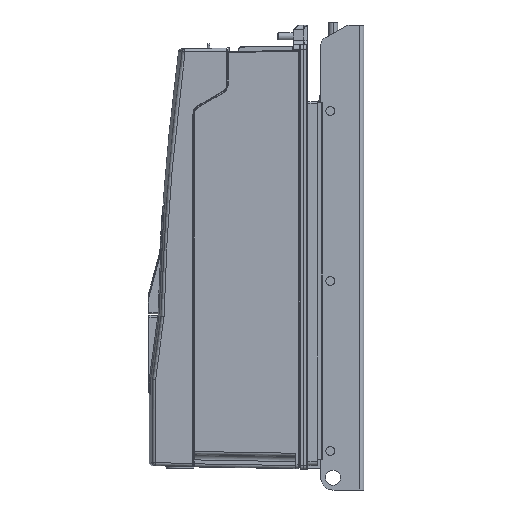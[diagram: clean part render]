
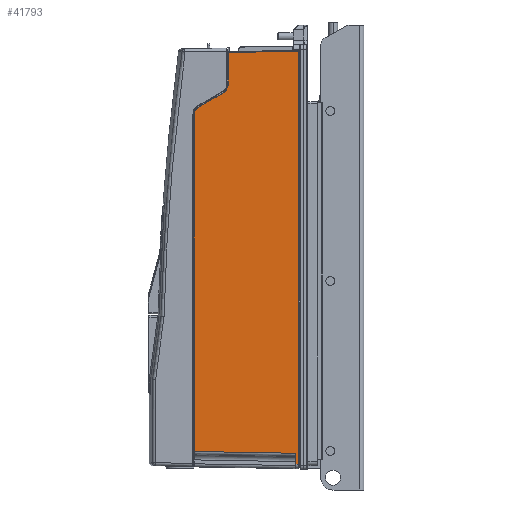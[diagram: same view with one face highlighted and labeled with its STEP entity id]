
A CAD part, left-side view. The second image highlights one B-rep face of the part: STEP entity #41793.
In plain terms, the highlighted planar face has unit normal (-1, 0.018, 0) as drawn and (1, 0.018, 0) by its records, which use the part's own axes.
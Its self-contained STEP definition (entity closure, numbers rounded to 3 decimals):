
#3568 = CARTESIAN_POINT ( 'NONE',  ( 121.241, 114.904, 62.726 ) ) ;
#4063 = EDGE_CURVE ( 'NONE', #96869, #19794, #84691, .T. ) ;
#4316 = VECTOR ( 'NONE', #13209, 1000. ) ;
#6596 = VECTOR ( 'NONE', #77265, 1000. ) ;
#6706 = CARTESIAN_POINT ( 'NONE',  ( 121.84, 81.5, 471. ) ) ;
#10219 = EDGE_CURVE ( 'NONE', #98341, #74494, #77408, .T. ) ;
#12464 = DIRECTION ( 'NONE',  ( -0.016, 0.866, 0.5 ) ) ;
#13209 = DIRECTION ( 'NONE',  ( 0.018, -1., 0. ) ) ;
#14931 = CARTESIAN_POINT ( 'NONE',  ( 123.213, 4.86, 454.589 ) ) ;
#15784 = AXIS2_PLACEMENT_3D ( 'NONE', #35312, #43630, #44665 ) ;
#17586 = VECTOR ( 'NONE', #12464, 1000. ) ;
#19753 = CARTESIAN_POINT ( 'NONE',  ( 121.154, 119.804, 71.213 ) ) ;
#19794 = VERTEX_POINT ( 'NONE', #90331 ) ;
#21732 = CARTESIAN_POINT ( 'NONE',  ( 123.214, 4.804, 455.156 ) ) ;
#21934 = CARTESIAN_POINT ( 'NONE',  ( 121.154, 119.804, 471. ) ) ;
#22891 = EDGE_CURVE ( 'NONE', #19794, #66517, #48826, .T. ) ;
#22925 = ORIENTED_EDGE ( 'NONE', *, *, #82136, .T. ) ;
#23304 = CARTESIAN_POINT ( 'NONE',  ( 123.214, 4.804, 455.156 ) ) ;
#23588 = CARTESIAN_POINT ( 'NONE',  ( 123.207, 5.196, 453.497 ) ) ;
#25798 = VERTEX_POINT ( 'NONE', #71453 ) ;
#25973 = EDGE_CURVE ( 'NONE', #74494, #93705, #28088, .T. ) ;
#26889 = LINE ( 'NONE', #59220, #68629 ) ;
#27454 = VECTOR ( 'NONE', #47631, 1000. ) ;
#27688 = ORIENTED_EDGE ( 'NONE', *, *, #49994, .T. ) ;
#28088 = LINE ( 'NONE', #83375, #65966 ) ;
#28548 = CARTESIAN_POINT ( 'NONE',  ( 123.214, 4.804, 465.943 ) ) ;
#30614 = CARTESIAN_POINT ( 'NONE',  ( 123.21, 5.009, 454.037 ) ) ;
#32450 = CARTESIAN_POINT ( 'NONE',  ( 123.212, 4.939, 453.502 ) ) ;
#34714 = VERTEX_POINT ( 'NONE', #23588 ) ;
#35312 = CARTESIAN_POINT ( 'NONE',  ( 121.15, 120., 471. ) ) ;
#35947 = CARTESIAN_POINT ( 'NONE',  ( 121.186, 118.01, 64.519 ) ) ;
#37039 = CARTESIAN_POINT ( 'NONE',  ( 121.154, 119.804, 71.213 ) ) ;
#37098 = VECTOR ( 'NONE', #44554, 1000. ) ;
#38477 = ORIENTED_EDGE ( 'NONE', *, *, #42649, .T. ) ;
#38492 = CARTESIAN_POINT ( 'NONE',  ( 121.154, 119.804, 451.497 ) ) ;
#39467 = CARTESIAN_POINT ( 'NONE',  ( 123.214, 4.804, 454.869 ) ) ;
#41793 = ADVANCED_FACE ( 'NONE', ( #99489 ), #59826, .F. ) ;
#41849 = B_SPLINE_CURVE_WITH_KNOTS ( 'NONE', 3,
 ( #61411, #47296, #30614, #14931, #39467, #21732 ),
 .UNSPECIFIED., .F., .F.,
 ( 4, 2, 4 ),
 ( 0., 0.001, 0.002 ),
 .UNSPECIFIED. ) ;
#42649 = EDGE_CURVE ( 'NONE', #101862, #25798, #66254, .T. ) ;
#42808 = ORIENTED_EDGE ( 'NONE', *, *, #4063, .F. ) ;
#43630 = DIRECTION ( 'NONE',  ( -1., -0.018, 0. ) ) ;
#43763 = CARTESIAN_POINT ( 'NONE',  ( 121.154, 119.804, 67.626 ) ) ;
#44554 = DIRECTION ( 'NONE',  ( 0., 0., 1. ) ) ;
#44665 = DIRECTION ( 'NONE',  ( 0.018, -1., 0. ) ) ;
#45438 = LINE ( 'NONE', #21934, #6596 ) ;
#46513 = CARTESIAN_POINT ( 'NONE',  ( 121.834, 81.804, 37.726 ) ) ;
#47262 = ORIENTED_EDGE ( 'NONE', *, *, #25973, .T. ) ;
#47296 = CARTESIAN_POINT ( 'NONE',  ( 123.209, 5.102, 453.767 ) ) ;
#47631 = DIRECTION ( 'NONE',  ( 0., 0., -1. ) ) ;
#48097 = CARTESIAN_POINT ( 'NONE',  ( 121.743, 86.904, 46.56 ) ) ;
#48507 = CARTESIAN_POINT ( 'NONE',  ( 123.269, 1.704, -0.542 ) ) ;
#48819 = ORIENTED_EDGE ( 'NONE', *, *, #75736, .T. ) ;
#48826 = LINE ( 'NONE', #6706, #64050 ) ;
#49994 = EDGE_CURVE ( 'NONE', #90820, #66517, #26889, .T. ) ;
#51889 = CARTESIAN_POINT ( 'NONE',  ( 123.214, 4.804, 471. ) ) ;
#52586 = EDGE_LOOP ( 'NONE', ( #42808, #87067, #38477, #89182, #22925, #72062, #54592, #83124, #47262, #48819, #27688, #95103 ) ) ;
#53446 = CARTESIAN_POINT ( 'NONE',  ( 121.84, 81.5, 0.99 ) ) ;
#53932 = CARTESIAN_POINT ( 'NONE',  ( 121.15, 120., 37.726 ) ) ;
#53943 = LINE ( 'NONE', #69576, #27454 ) ;
#54140 =( BOUNDED_CURVE ( )  B_SPLINE_CURVE ( 3, ( #55472, #91919, #59566, #66377 ),
 .UNSPECIFIED., .F., .T. ) 
 B_SPLINE_CURVE_WITH_KNOTS ( ( 4, 4 ),
 ( 0., 1.047 ),
 .UNSPECIFIED. ) 
 CURVE ( )  GEOMETRIC_REPRESENTATION_ITEM ( )  RATIONAL_B_SPLINE_CURVE ( ( 1., 0.911, 0.911, 1. ) ) 
 REPRESENTATION_ITEM ( '' )  );
#54592 = ORIENTED_EDGE ( 'NONE', *, *, #63950, .T. ) ;
#55472 = CARTESIAN_POINT ( 'NONE',  ( 121.834, 81.804, 37.726 ) ) ;
#59220 = CARTESIAN_POINT ( 'NONE',  ( 120.989, 129.004, 1.902 ) ) ;
#59566 = CARTESIAN_POINT ( 'NONE',  ( 121.801, 83.67, 44.693 ) ) ;
#59826 = PLANE ( 'NONE',  #15784 ) ;
#61411 = CARTESIAN_POINT ( 'NONE',  ( 123.207, 5.196, 453.497 ) ) ;
#63950 = EDGE_CURVE ( 'NONE', #34714, #98341, #41849, .T. ) ;
#64050 = VECTOR ( 'NONE', #71788, 1000. ) ;
#65966 = VECTOR ( 'NONE', #100096, 1000. ) ;
#66254 = LINE ( 'NONE', #83938, #17586 ) ;
#66377 = CARTESIAN_POINT ( 'NONE',  ( 121.743, 86.904, 46.56 ) ) ;
#66517 = VERTEX_POINT ( 'NONE', #53446 ) ;
#68629 = VECTOR ( 'NONE', #73338, 1000. ) ;
#69435 = EDGE_CURVE ( 'NONE', #96869, #101862, #54140, .T. ) ;
#69576 = CARTESIAN_POINT ( 'NONE',  ( 123.269, 1.704, 471. ) ) ;
#71453 = CARTESIAN_POINT ( 'NONE',  ( 121.241, 114.904, 62.726 ) ) ;
#71788 = DIRECTION ( 'NONE',  ( 0., 0., -1. ) ) ;
#72062 = ORIENTED_EDGE ( 'NONE', *, *, #101754, .T. ) ;
#73118 = LINE ( 'NONE', #32450, #88344 ) ;
#73338 = DIRECTION ( 'NONE',  ( -0.018, 1., 0.019 ) ) ;
#74494 = VERTEX_POINT ( 'NONE', #28548 ) ;
#75736 = EDGE_CURVE ( 'NONE', #93705, #90820, #53943, .T. ) ;
#77265 = DIRECTION ( 'NONE',  ( 0., 0., 1. ) ) ;
#77408 = LINE ( 'NONE', #51889, #37098 ) ;
#82136 = EDGE_CURVE ( 'NONE', #85664, #94576, #45438, .T. ) ;
#83124 = ORIENTED_EDGE ( 'NONE', *, *, #10219, .T. ) ;
#83375 = CARTESIAN_POINT ( 'NONE',  ( 123.275, 1.413, 466.002 ) ) ;
#83938 = CARTESIAN_POINT ( 'NONE',  ( 121.241, 114.901, 62.724 ) ) ;
#84691 = LINE ( 'NONE', #53932, #4316 ) ;
#85664 = VERTEX_POINT ( 'NONE', #37039 ) ;
#87067 = ORIENTED_EDGE ( 'NONE', *, *, #69435, .T. ) ;
#87789 = CARTESIAN_POINT ( 'NONE',  ( 123.269, 1.704, 465.997 ) ) ;
#88344 = VECTOR ( 'NONE', #97137, 1000. ) ;
#89182 = ORIENTED_EDGE ( 'NONE', *, *, #95493, .T. ) ;
#90331 = CARTESIAN_POINT ( 'NONE',  ( 121.84, 81.5, 37.726 ) ) ;
#90820 = VERTEX_POINT ( 'NONE', #48507 ) ;
#91919 = CARTESIAN_POINT ( 'NONE',  ( 121.834, 81.804, 41.46 ) ) ;
#93599 =( BOUNDED_CURVE ( )  B_SPLINE_CURVE ( 3, ( #3568, #35947, #43763, #19753 ),
 .UNSPECIFIED., .F., .T. ) 
 B_SPLINE_CURVE_WITH_KNOTS ( ( 4, 4 ),
 ( 2.094, 3.142 ),
 .UNSPECIFIED. ) 
 CURVE ( )  GEOMETRIC_REPRESENTATION_ITEM ( )  RATIONAL_B_SPLINE_CURVE ( ( 1., 0.911, 0.911, 1. ) ) 
 REPRESENTATION_ITEM ( '' )  );
#93705 = VERTEX_POINT ( 'NONE', #87789 ) ;
#94576 = VERTEX_POINT ( 'NONE', #38492 ) ;
#95103 = ORIENTED_EDGE ( 'NONE', *, *, #22891, .F. ) ;
#95493 = EDGE_CURVE ( 'NONE', #25798, #85664, #93599, .T. ) ;
#96869 = VERTEX_POINT ( 'NONE', #46513 ) ;
#97137 = DIRECTION ( 'NONE',  ( 0.018, -1., 0.017 ) ) ;
#98341 = VERTEX_POINT ( 'NONE', #23304 ) ;
#99489 = FACE_OUTER_BOUND ( 'NONE', #52586, .T. ) ;
#100096 = DIRECTION ( 'NONE',  ( 0.018, -1., 0.017 ) ) ;
#101754 = EDGE_CURVE ( 'NONE', #94576, #34714, #73118, .T. ) ;
#101862 = VERTEX_POINT ( 'NONE', #48097 ) ;
